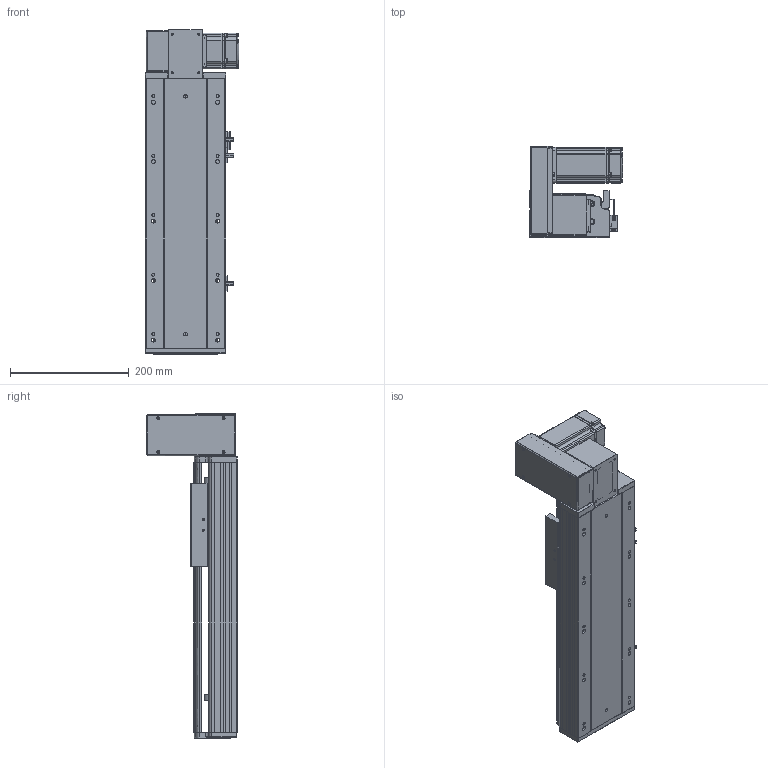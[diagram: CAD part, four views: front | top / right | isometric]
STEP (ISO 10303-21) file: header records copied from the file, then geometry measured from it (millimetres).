
FILE_DESCRIPTION (( 'STEP AP203' ), '1' );
FILE_NAME ('RY140-T-300-UL.SLDASM_200.step', '2021-03-01T07:42:47', ( '盈信电脑' ), ( '东莞市道滘镇水果街19号' ), 'SwSTEP 2.0', 'SolidWorks 2012', '' );
FILE_SCHEMA (( 'CONFIG_CONTROL_DESIGN' ));
Products named in the file (18): 滅袉蝶18-10; RY140-T-300-UL.SLDASM_200; RY140-T翋肮謫裔啣; RY140-T萇儂欶; RY120-T主同步轮轴承压盖; 侂狟400W侜督萇儂; RY120-T蹟翐M4; RY140-T萇儂假蚾啣; 15; RY140-T翋肮祭謫盓傅釱; 覜茼ん672; RY120外置感应片(140共用）; RY120-T肮祭湍揤踡輸1; RY120-T肮祭湍揤踡輸2; RY140-T-300-DL倰第奻裔啣_200; RY140綴裔啣; RY140肮祭謫臏賑輸; RY140-T-300-DL倰第菁釱_200
Assembly tree (23 placements, depth 3):
  RY140-T-300-UL.SLDASM_200
    RY140-T-300-DL倰第菁釱_200
    RY140肮祭謫臏賑輸
    RY140-T-300-DL倰第奻裔啣_200
    RY140綴裔啣
    覜茼ん672  x3
    RY120外置感应片(140共用）
    RY120-T肮祭湍揤踡輸2
    RY120-T肮祭湍揤踡輸1
    RY140-T翋肮祭謫盓傅釱
    RY140-T萇儂假蚾啣
    侂狟400W侜督萇儂
      15
    RY120-T主同步轮轴承压盖
    RY120-T蹟翐M4  x4
    RY140-T萇儂欶
    滅袉蝶18-10  x2
    RY140-T翋肮謫裔啣
Bounding box: 157 x 152.5 x 546 mm (x, y, z)
Volume: 2082097.1 mm3; surface area: 743167.5 mm2
Topology: 22 solids, 22 shells, 2531 faces, 6909 edges, 4466 vertices
Faces by surface type: plane 1385, cylinder 880, cone 166, bspline 100
Entity records: 80067 total; most frequent: CARTESIAN_POINT 19631, ORIENTED_EDGE 12410, DIRECTION 11733, EDGE_CURVE 6205, VERTEX_POINT 4065, VECTOR 4053, LINE 4053, AXIS2_PLACEMENT_3D 3840
